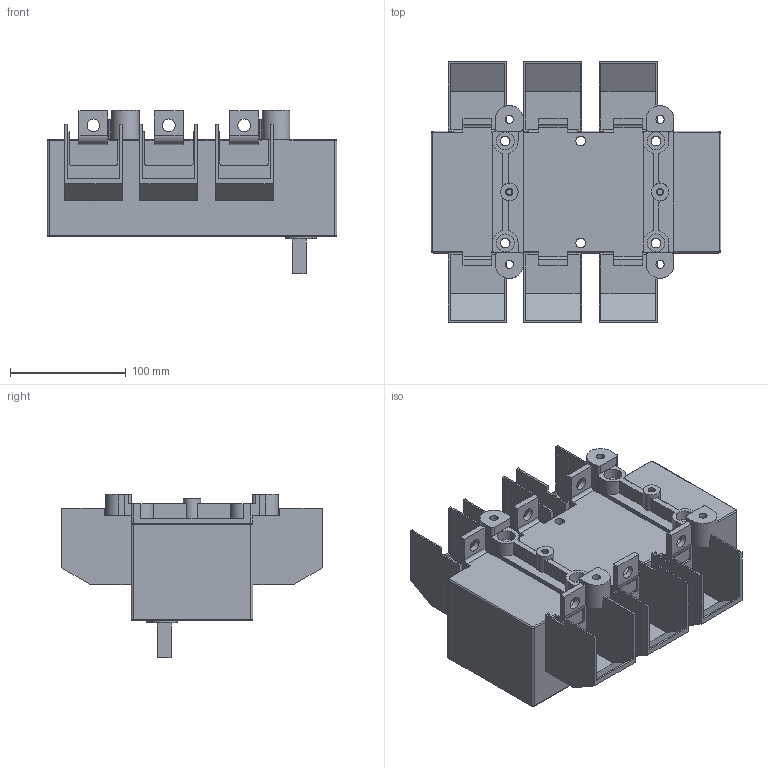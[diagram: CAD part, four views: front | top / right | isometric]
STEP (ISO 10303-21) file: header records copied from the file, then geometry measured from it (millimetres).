
FILE_DESCRIPTION(/* description */ (''),/* implementation_level */ '2;1');
FILE_NAME(/* name */ 'RA630 P3 C z oslona zaciskow.stp',/* time_stamp */ '2021-08-19T08:51:35+02:00',/* author */ (''),/* organization */ (''),/* preprocessor_version */ 'ST-DEVELOPER v18.1',/* originating_system */ 'SIEMENS PLM Software NX 1965',/* authorisation */ '');
FILE_SCHEMA (('AUTOMOTIVE_DESIGN { 1 0 10303 214 3 1 1 1 }'));
Length unit declared in the file: millimetre
Products named in the file (1): RA630 P3 C z oslona zaciskow_stp
Bounding box: 250 x 225 x 141 mm (x, y, z)
Volume: 2392604.5 mm3; surface area: 288917.3 mm2
Topology: 1 solids, 1 shells, 380 faces, 1102 edges, 722 vertices
Faces by surface type: plane 262, cylinder 110, torus 5, bspline 3
Full cylindrical faces by diameter (mm): 4.8 x2, 6.2 x2, 7 x4, 8.2 x6, 11 x6, 14 x4, 15 x2, 15.5 x4
Entity records: 12397 total; most frequent: CARTESIAN_POINT 2226, ORIENTED_EDGE 2128, DIRECTION 2072, EDGE_CURVE 1064, LINE 808, VECTOR 808, VERTEX_POINT 714, AXIS2_PLACEMENT_3D 632
